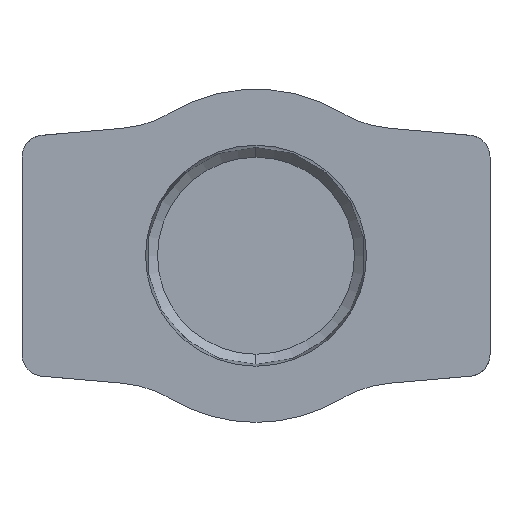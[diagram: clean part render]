
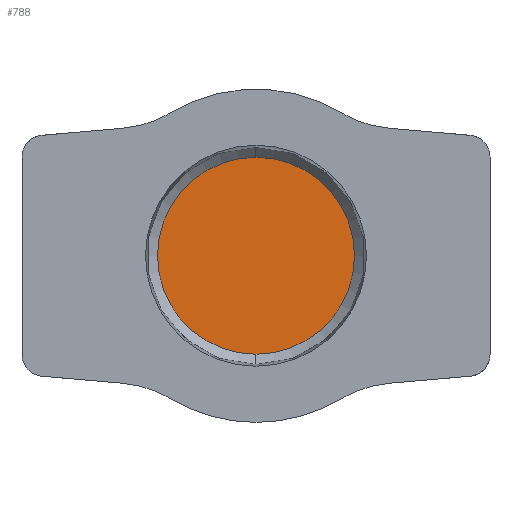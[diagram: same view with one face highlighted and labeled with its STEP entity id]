
A CAD part, front view. The second image highlights one B-rep face of the part: STEP entity #788.
In plain terms, the highlighted planar face has unit normal (0, -1, 0).
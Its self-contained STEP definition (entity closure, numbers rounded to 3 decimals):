
#20 = CARTESIAN_POINT ( 'NONE',  ( 0., 10.4, 8.984 ) ) ;
#36 = EDGE_LOOP ( 'NONE', ( #460, #1177 ) ) ;
#122 = DIRECTION ( 'NONE',  ( 0., 0., -1. ) ) ;
#181 = VERTEX_POINT ( 'NONE', #20 ) ;
#182 = DIRECTION ( 'NONE',  ( 0., -1., 0. ) ) ;
#244 = CARTESIAN_POINT ( 'NONE',  ( 0., 10.4, 0. ) ) ;
#258 = AXIS2_PLACEMENT_3D ( 'NONE', #294, #182, #1430 ) ;
#294 = CARTESIAN_POINT ( 'NONE',  ( 0., 10.4, 0. ) ) ;
#389 = CARTESIAN_POINT ( 'NONE',  ( 0., 10.4, 0. ) ) ;
#415 = CARTESIAN_POINT ( 'NONE',  ( 0., 10.4, -8.984 ) ) ;
#460 = ORIENTED_EDGE ( 'NONE', *, *, #658, .T. ) ;
#496 = CIRCLE ( 'NONE', #258, 8.984 ) ;
#658 = EDGE_CURVE ( 'NONE', #951, #181, #1490, .T. ) ;
#710 = DIRECTION ( 'NONE',  ( 0., 1., 0. ) ) ;
#718 = DIRECTION ( 'NONE',  ( 0., 0., 1. ) ) ;
#788 = ADVANCED_FACE ( 'NONE', ( #1422 ), #1414, .F. ) ;
#855 = AXIS2_PLACEMENT_3D ( 'NONE', #389, #710, #718 ) ;
#933 = EDGE_CURVE ( 'NONE', #181, #951, #496, .T. ) ;
#951 = VERTEX_POINT ( 'NONE', #415 ) ;
#1070 = AXIS2_PLACEMENT_3D ( 'NONE', #244, #1259, #122 ) ;
#1177 = ORIENTED_EDGE ( 'NONE', *, *, #933, .T. ) ;
#1259 = DIRECTION ( 'NONE',  ( 0., -1., 0. ) ) ;
#1414 = PLANE ( 'NONE',  #855 ) ;
#1422 = FACE_OUTER_BOUND ( 'NONE', #36, .T. ) ;
#1430 = DIRECTION ( 'NONE',  ( 0., 0., -1. ) ) ;
#1490 = CIRCLE ( 'NONE', #1070, 8.984 ) ;
